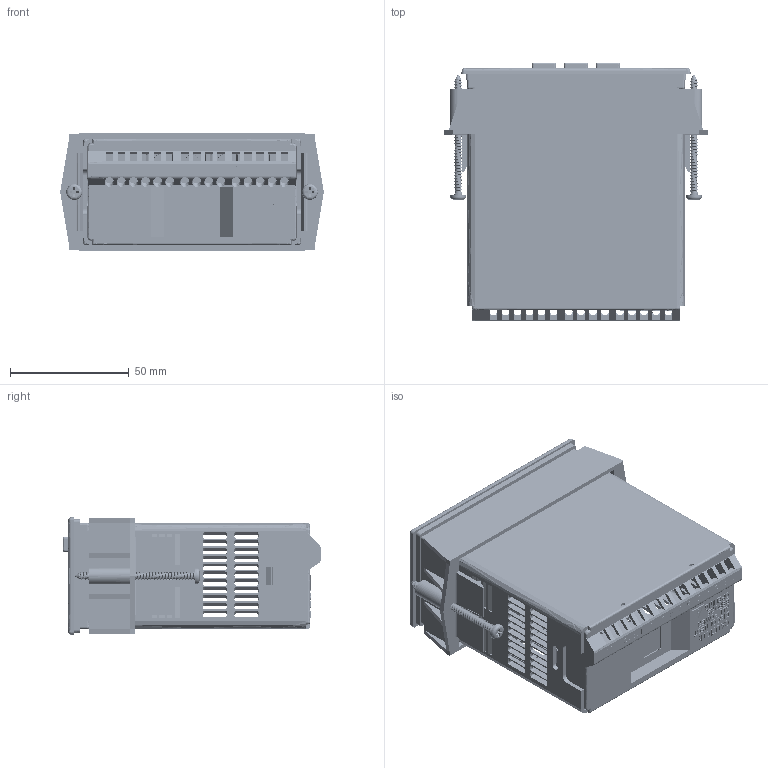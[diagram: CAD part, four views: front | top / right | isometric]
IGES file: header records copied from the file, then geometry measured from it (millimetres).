
Start section: C
Global section: file name: PAXLITE_IGES.igs; native system: By Siemens PLM Incorporated; preprocessor: XPlus GENERIC/IGES 20.0.26; author: Author; organization: Title; date: 20221229.131244; units: millimetre
Bounding box: 111.07 x 108.58 x 49.53 mm (x, y, z)
Surface area: 99582.2 mm2 (no closed solid volume)
Topology: 0 solids, 0 shells, 2529 faces, 15572 edges, 15560 vertices
Faces by surface type: bspline 2529
